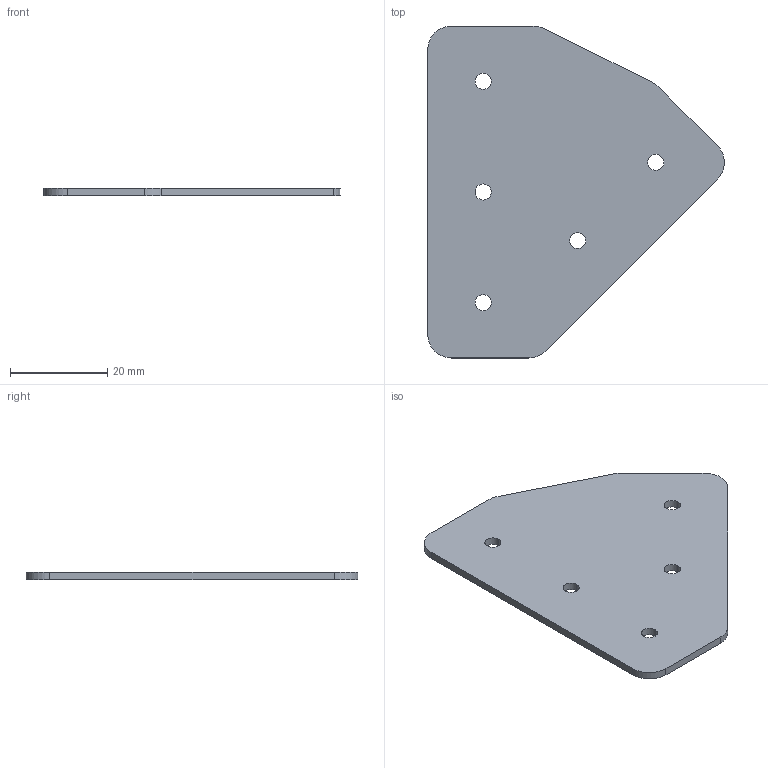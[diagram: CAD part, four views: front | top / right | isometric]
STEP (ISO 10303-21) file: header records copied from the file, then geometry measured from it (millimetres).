
FILE_DESCRIPTION (( 'STEP AP203' ), '1' );
FILE_NAME ('FDPGK-S_.75-45.step', '2019-09-11T19:45:28', ( 'ydmin' ), ( '' ), 'SwSTEP 2.0', 'SolidWorks 2017', '' );
FILE_SCHEMA (( 'CONFIG_CONTROL_DESIGN' ));
Length unit declared in the file: inch
Products named in the file (1): FDPGK-S_.75-45
Bounding box: 60.9 x 68.2 x 1.59 mm (x, y, z)
Volume: 4699 mm3; surface area: 6341.5 mm2
Topology: 1 solids, 1 shells, 24 faces, 66 edges, 44 vertices
Faces by surface type: cylinder 16, plane 8
Entity records: 881 total; most frequent: DIRECTION 148, CARTESIAN_POINT 135, ORIENTED_EDGE 132, EDGE_CURVE 66, AXIS2_PLACEMENT_3D 57, VERTEX_POINT 44, VECTOR 34, EDGE_LOOP 34
